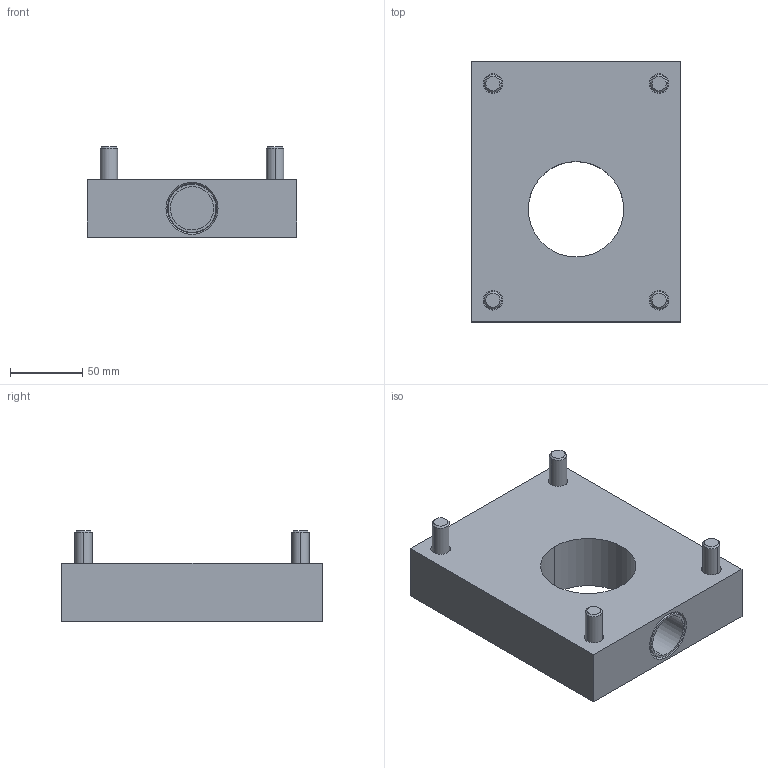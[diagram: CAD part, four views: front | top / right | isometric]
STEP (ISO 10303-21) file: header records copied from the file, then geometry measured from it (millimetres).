
FILE_DESCRIPTION (( 'STEP AP203' ), '1' );
FILE_NAME ('MJ4-KP(B1).STEP', '2024-01-16T09:53:30', ( '' ), ( '' ), 'SwSTEP 2.0', 'SolidWorks 2022', '' );
FILE_SCHEMA (( 'CONFIG_CONTROL_DESIGN' ));
Length unit declared in the file: millimetre
Products named in the file (1): MJ4-KP(B1)
Bounding box: 145 x 180 x 62.6 mm (x, y, z)
Volume: 865170.5 mm3; surface area: 118320 mm2
Topology: 7 solids, 7 shells, 142 faces, 334 edges, 212 vertices
Faces by surface type: plane 52, cylinder 46, cone 28, torus 16
Entity records: 4123 total; most frequent: CARTESIAN_POINT 745, DIRECTION 740, ORIENTED_EDGE 652, EDGE_CURVE 326, AXIS2_PLACEMENT_3D 303, VERTEX_POINT 212, EDGE_LOOP 170, CIRCLE 160
